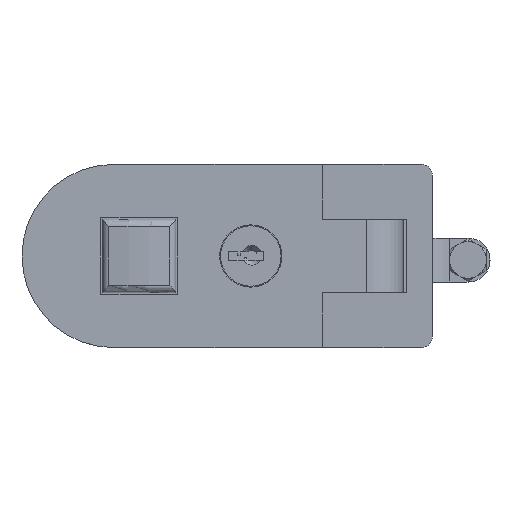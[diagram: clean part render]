
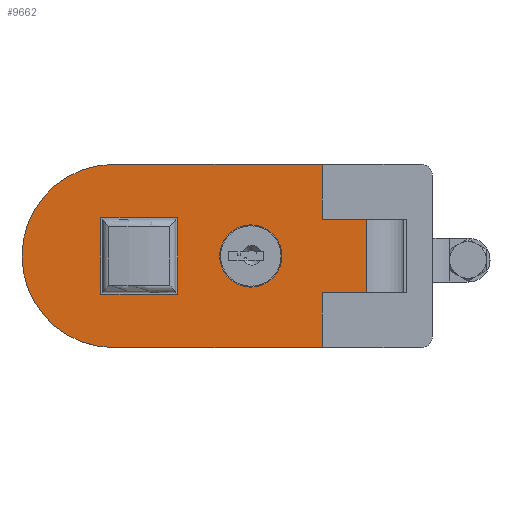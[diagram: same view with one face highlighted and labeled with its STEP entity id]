
A CAD part, top view. The second image highlights one B-rep face of the part: STEP entity #9662.
In plain terms, the highlighted planar face has unit normal (0, 0, 1).
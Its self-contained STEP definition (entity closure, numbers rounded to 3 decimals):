
#246 = VECTOR ( 'NONE', #7570, 1000. ) ;
#250 = LINE ( 'NONE', #7564, #246 ) ;
#252 = LINE ( 'NONE', #7567, #253 ) ;
#253 = VECTOR ( 'NONE', #7572, 1000. ) ;
#559 = EDGE_LOOP ( 'NONE', ( #8972, #8973 ) ) ;
#561 = EDGE_LOOP ( 'NONE', ( #8978, #8979, #8980, #8981, #8982, #8983, #8984, #8985 ) ) ;
#563 = EDGE_LOOP ( 'NONE', ( #8974, #8975, #8976, #8977 ) ) ;
#1423 = CARTESIAN_POINT ( 'NONE',  ( 25., 19.542, 3. ) ) ;
#1428 = DIRECTION ( 'NONE',  ( 0., 0., 1. ) ) ;
#1429 = DIRECTION ( 'NONE',  ( 1., 0., 0. ) ) ;
#1456 = CARTESIAN_POINT ( 'NONE',  ( 35.5, 39.5, 3. ) ) ;
#1465 = DIRECTION ( 'NONE',  ( 0., 1., 0. ) ) ;
#1470 = CARTESIAN_POINT ( 'NONE',  ( 14.5, 39.5, 3. ) ) ;
#1473 = DIRECTION ( 'NONE',  ( 1., 0., 0. ) ) ;
#2182 = CIRCLE ( 'NONE', #9503, 8.5 ) ;
#2195 = LINE ( 'NONE', #1456, #2197 ) ;
#2197 = VECTOR ( 'NONE', #1465, 1000. ) ;
#2200 = LINE ( 'NONE', #1470, #2204 ) ;
#2204 = VECTOR ( 'NONE', #1473, 1000. ) ;
#2452 = LINE ( 'NONE', #3401, #2466 ) ;
#2457 = VECTOR ( 'NONE', #3412, 1000. ) ;
#2466 = VECTOR ( 'NONE', #3402, 1000. ) ;
#2467 = LINE ( 'NONE', #3411, #2457 ) ;
#2468 = LINE ( 'NONE', #3398, #2470 ) ;
#2469 = CIRCLE ( 'NONE', #2593, 8.5 ) ;
#2470 = VECTOR ( 'NONE', #3404, 1000. ) ;
#2472 = LINE ( 'NONE', #3405, #2473 ) ;
#2473 = VECTOR ( 'NONE', #3406, 1000. ) ;
#2474 = LINE ( 'NONE', #3407, #2475 ) ;
#2475 = VECTOR ( 'NONE', #3408, 1000. ) ;
#2477 = LINE ( 'NONE', #3400, #2479 ) ;
#2478 = CIRCLE ( 'NONE', #2602, 25. ) ;
#2479 = VECTOR ( 'NONE', #3414, 1000. ) ;
#2481 = LINE ( 'NONE', #3415, #2482 ) ;
#2482 = VECTOR ( 'NONE', #3416, 1000. ) ;
#2593 = AXIS2_PLACEMENT_3D ( 'NONE', #3397, #3396, #3399 ) ;
#2602 = AXIS2_PLACEMENT_3D ( 'NONE', #3403, #3409, #3410 ) ;
#2817 = AXIS2_PLACEMENT_3D ( 'NONE', #4863, #4864, #4865 ) ;
#3245 = CARTESIAN_POINT ( 'NONE',  ( 35.5, 39.5, 3. ) ) ;
#3246 = CARTESIAN_POINT ( 'NONE',  ( 35., 0., 3. ) ) ;
#3247 = CARTESIAN_POINT ( 'NONE',  ( 0., 57., 3. ) ) ;
#3248 = CARTESIAN_POINT ( 'NONE',  ( 14.5, 39.5, 3. ) ) ;
#3251 = CARTESIAN_POINT ( 'NONE',  ( 15., -11.932, 3. ) ) ;
#3254 = CARTESIAN_POINT ( 'NONE',  ( 35., -11.932, 3. ) ) ;
#3255 = CARTESIAN_POINT ( 'NONE',  ( 50., 0., 3. ) ) ;
#3256 = CARTESIAN_POINT ( 'NONE',  ( 50., 57., 3. ) ) ;
#3259 = CARTESIAN_POINT ( 'NONE',  ( 0., 0., 3. ) ) ;
#3263 = CARTESIAN_POINT ( 'NONE',  ( 15., 0., 3. ) ) ;
#3269 = CARTESIAN_POINT ( 'NONE',  ( 16.5, 19.542, 3. ) ) ;
#3272 = CARTESIAN_POINT ( 'NONE',  ( 33.5, 19.542, 3. ) ) ;
#3283 = CARTESIAN_POINT ( 'NONE',  ( 35.5, 60.5, 3. ) ) ;
#3288 = CARTESIAN_POINT ( 'NONE',  ( 14.5, 60.5, 3. ) ) ;
#3396 = DIRECTION ( 'NONE',  ( 0., 0., 1. ) ) ;
#3397 = CARTESIAN_POINT ( 'NONE',  ( 25., 19.542, 3. ) ) ;
#3398 = CARTESIAN_POINT ( 'NONE',  ( 0., -11.932, 3. ) ) ;
#3399 = DIRECTION ( 'NONE',  ( 1., 0., 0. ) ) ;
#3400 = CARTESIAN_POINT ( 'NONE',  ( 25., 0., 3. ) ) ;
#3401 = CARTESIAN_POINT ( 'NONE',  ( 35.5, 60.5, 3. ) ) ;
#3402 = DIRECTION ( 'NONE',  ( -1., 0., 0. ) ) ;
#3403 = CARTESIAN_POINT ( 'NONE',  ( 25., 57., 3. ) ) ;
#3404 = DIRECTION ( 'NONE',  ( 1., 0., 0. ) ) ;
#3405 = CARTESIAN_POINT ( 'NONE',  ( 50., -59.898, 3. ) ) ;
#3406 = DIRECTION ( 'NONE',  ( 0., 1., 0. ) ) ;
#3407 = CARTESIAN_POINT ( 'NONE',  ( 25., 0., 3. ) ) ;
#3408 = DIRECTION ( 'NONE',  ( 1., 0., 0. ) ) ;
#3409 = DIRECTION ( 'NONE',  ( 0., 0., 1. ) ) ;
#3410 = DIRECTION ( 'NONE',  ( 1., 0., 0. ) ) ;
#3411 = CARTESIAN_POINT ( 'NONE',  ( 0., -59.898, 3. ) ) ;
#3412 = DIRECTION ( 'NONE',  ( 0., 1., 0. ) ) ;
#3414 = DIRECTION ( 'NONE',  ( 1., 0., 0. ) ) ;
#3415 = CARTESIAN_POINT ( 'NONE',  ( 15., -59.898, 3. ) ) ;
#3416 = DIRECTION ( 'NONE',  ( 0., 1., 0. ) ) ;
#4862 = PLANE ( 'NONE',  #2817 ) ;
#4863 = CARTESIAN_POINT ( 'NONE',  ( 25., -59.898, 3. ) ) ;
#4864 = DIRECTION ( 'NONE',  ( 0., 0., 1. ) ) ;
#4865 = DIRECTION ( 'NONE',  ( 1., 0., 0. ) ) ;
#6835 = FACE_BOUND ( 'NONE', #559, .T. ) ;
#6836 = FACE_BOUND ( 'NONE', #563, .T. ) ;
#6841 = FACE_OUTER_BOUND ( 'NONE', #561, .T. ) ;
#7000 = EDGE_CURVE ( 'NONE', #7867, #7827, #250, .T. ) ;
#7001 = EDGE_CURVE ( 'NONE', #7833, #7825, #252, .T. ) ;
#7214 = EDGE_CURVE ( 'NONE', #7848, #7851, #2182, .T. ) ;
#7226 = EDGE_CURVE ( 'NONE', #7824, #7862, #2195, .T. ) ;
#7230 = EDGE_CURVE ( 'NONE', #7827, #7824, #2200, .T. ) ;
#7564 = CARTESIAN_POINT ( 'NONE',  ( 14.5, 60.5, 3. ) ) ;
#7567 = CARTESIAN_POINT ( 'NONE',  ( 35., -22., 3. ) ) ;
#7570 = DIRECTION ( 'NONE',  ( 0., -1., 0. ) ) ;
#7572 = DIRECTION ( 'NONE',  ( 0., 1., 0. ) ) ;
#7824 = VERTEX_POINT ( 'NONE', #3245 ) ;
#7825 = VERTEX_POINT ( 'NONE', #3246 ) ;
#7826 = VERTEX_POINT ( 'NONE', #3247 ) ;
#7827 = VERTEX_POINT ( 'NONE', #3248 ) ;
#7830 = VERTEX_POINT ( 'NONE', #3251 ) ;
#7833 = VERTEX_POINT ( 'NONE', #3254 ) ;
#7834 = VERTEX_POINT ( 'NONE', #3255 ) ;
#7835 = VERTEX_POINT ( 'NONE', #3256 ) ;
#7838 = VERTEX_POINT ( 'NONE', #3259 ) ;
#7842 = VERTEX_POINT ( 'NONE', #3263 ) ;
#7848 = VERTEX_POINT ( 'NONE', #3269 ) ;
#7851 = VERTEX_POINT ( 'NONE', #3272 ) ;
#7862 = VERTEX_POINT ( 'NONE', #3283 ) ;
#7867 = VERTEX_POINT ( 'NONE', #3288 ) ;
#8972 = ORIENTED_EDGE ( 'NONE', *, *, #9003, .F. ) ;
#8973 = ORIENTED_EDGE ( 'NONE', *, *, #7214, .F. ) ;
#8974 = ORIENTED_EDGE ( 'NONE', *, *, #9004, .F. ) ;
#8975 = ORIENTED_EDGE ( 'NONE', *, *, #7226, .F. ) ;
#8976 = ORIENTED_EDGE ( 'NONE', *, *, #7230, .F. ) ;
#8977 = ORIENTED_EDGE ( 'NONE', *, *, #7000, .F. ) ;
#8978 = ORIENTED_EDGE ( 'NONE', *, *, #9005, .T. ) ;
#8979 = ORIENTED_EDGE ( 'NONE', *, *, #7001, .T. ) ;
#8980 = ORIENTED_EDGE ( 'NONE', *, *, #9007, .T. ) ;
#8981 = ORIENTED_EDGE ( 'NONE', *, *, #9006, .T. ) ;
#8982 = ORIENTED_EDGE ( 'NONE', *, *, #9008, .T. ) ;
#8983 = ORIENTED_EDGE ( 'NONE', *, *, #9009, .F. ) ;
#8984 = ORIENTED_EDGE ( 'NONE', *, *, #9010, .T. ) ;
#8985 = ORIENTED_EDGE ( 'NONE', *, *, #9011, .F. ) ;
#9003 = EDGE_CURVE ( 'NONE', #7851, #7848, #2469, .T. ) ;
#9004 = EDGE_CURVE ( 'NONE', #7862, #7867, #2452, .T. ) ;
#9005 = EDGE_CURVE ( 'NONE', #7830, #7833, #2468, .T. ) ;
#9006 = EDGE_CURVE ( 'NONE', #7834, #7835, #2472, .T. ) ;
#9007 = EDGE_CURVE ( 'NONE', #7825, #7834, #2474, .T. ) ;
#9008 = EDGE_CURVE ( 'NONE', #7835, #7826, #2478, .T. ) ;
#9009 = EDGE_CURVE ( 'NONE', #7838, #7826, #2467, .T. ) ;
#9010 = EDGE_CURVE ( 'NONE', #7838, #7842, #2477, .T. ) ;
#9011 = EDGE_CURVE ( 'NONE', #7830, #7842, #2481, .T. ) ;
#9503 = AXIS2_PLACEMENT_3D ( 'NONE', #1423, #1428, #1429 ) ;
#9662 = ADVANCED_FACE ( 'NONE', ( #6835, #6836, #6841 ), #4862, .T. ) ;
